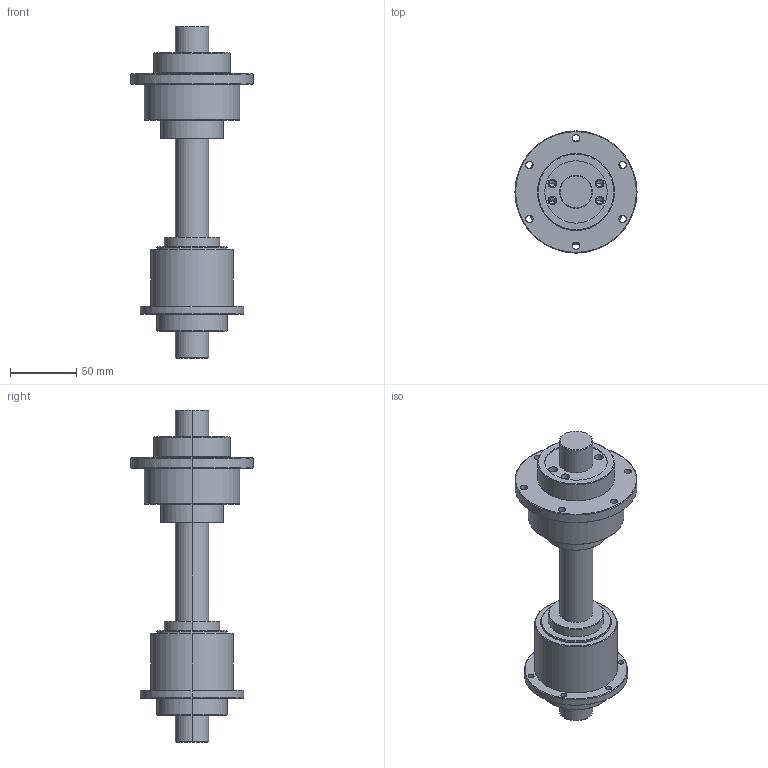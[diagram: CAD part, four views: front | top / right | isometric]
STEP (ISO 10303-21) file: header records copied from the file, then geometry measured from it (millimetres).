
FILE_DESCRIPTION (( 'STEP AP203' ), '1' );
FILE_NAME ('RBBY2525.STEP', '2014-11-13T08:55:13', ( '' ), ( '' ), 'SwSTEP 2.0', 'SolidWorks 2014', '' );
FILE_SCHEMA (( 'CONFIG_CONTROL_DESIGN' ));
Length unit declared in the file: millimetre
Products named in the file (4): RLBF25; RBBY2525; SC25; RFBY2525
Assembly tree (3 placements, depth 2):
  RBBY2525
    SC25
    RFBY2525
    RLBF25
Bounding box: 92 x 92 x 250 mm (x, y, z)
Volume: 477342.2 mm3; surface area: 92200.8 mm2
Topology: 5 solids, 5 shells, 185 faces, 438 edges, 266 vertices
Faces by surface type: cylinder 114, cone 48, plane 23
Entity records: 5738 total; most frequent: DIRECTION 1056, CARTESIAN_POINT 875, ORIENTED_EDGE 836, AXIS2_PLACEMENT_3D 447, EDGE_CURVE 418, VERTEX_POINT 266, CIRCLE 256, EDGE_LOOP 240
